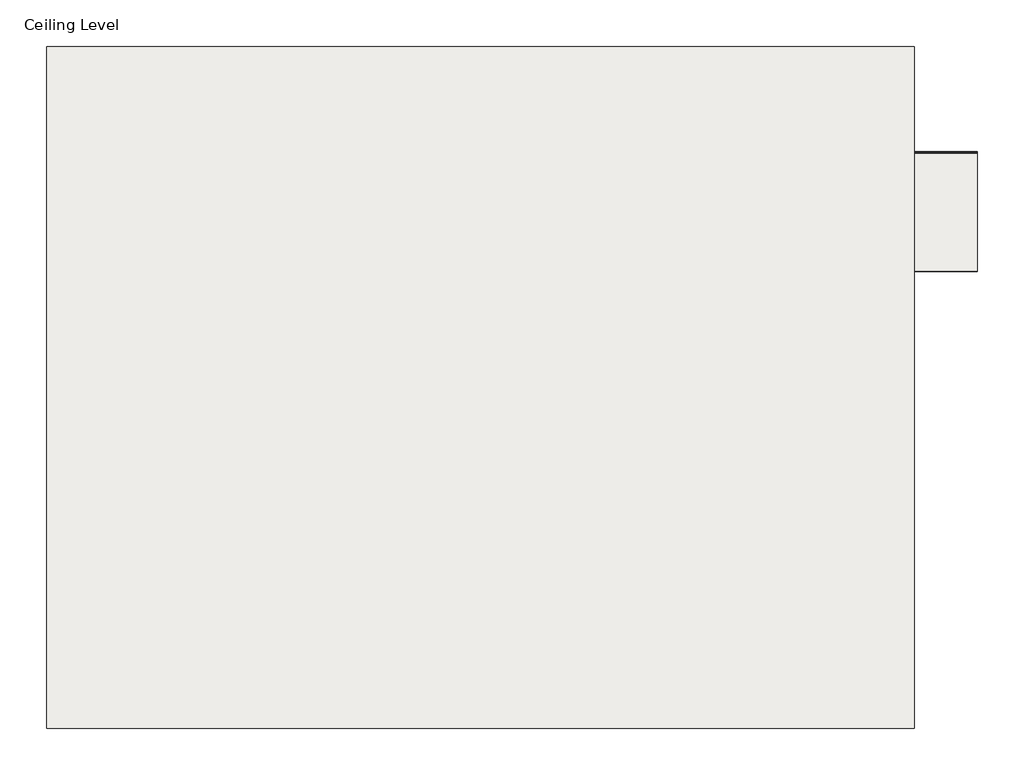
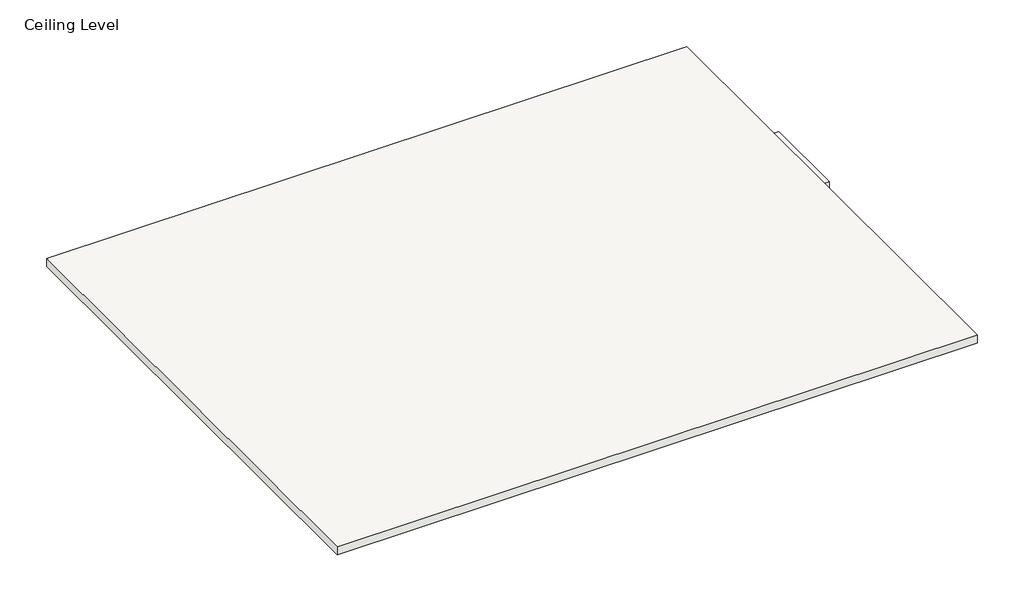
# One storey: 7 coverings.
"""IFC4 building model written with IfcOpenShell, lengths in millimetres."""

import ifcopenshell
import ifcopenshell.guid

model = None  # the IFC model being written
_history = None  # IfcOwnerHistory: only IFC2X3 demands one
_inside = {}  # id of a spatial element -> (the spatial element, [elements in it])
_under = {}  # id of a project, library or spatial element -> (it, [spatial elements below it])
_declared = {}  # id of a project -> (the project, [libraries it declares])
_typed = {}  # id of a type object -> (the type object, [elements of that type])
_made_of = {}  # id of a material, layer set ... -> (it, [elements and type objects made of it])


def new_model(schema):
    """Start an empty IFC model of exactly this schema.

    Asked for "IFC4X3", IfcOpenShell would pick the latest addendum, in which some entities
    have other attributes; the version numbers below select the first issue.
    IFC2X3 requires an IfcOwnerHistory on every rooted entity: one is made here for all.
    """
    global model, _history
    if schema == "IFC4X3":
        model = ifcopenshell.file(schema_version=(4, 3, 0, 0))
    else:
        model = ifcopenshell.file(schema=schema)
    _inside.clear()
    _under.clear()
    _declared.clear()
    _typed.clear()
    _made_of.clear()
    _history = None
    if model.schema == "IFC2X3":
        org = make("IfcOrganization", Name="unknown")
        user = make(
            "IfcPersonAndOrganization",
            ThePerson=make("IfcPerson", FamilyName="unknown"),
            TheOrganization=org,
        )
        app = make(
            "IfcApplication",
            ApplicationDeveloper=org,
            Version="unknown",
            ApplicationFullName="unknown",
            ApplicationIdentifier="unknown",
        )
        _history = make(
            "IfcOwnerHistory",
            OwningUser=user,
            OwningApplication=app,
            ChangeAction="ADDED",
            CreationDate=0,
        )
    return model


def make(cls, **values):
    """One entity of the class cls with the attributes given. An attribute that is None is left unset."""
    return model.create_entity(
        cls, **{name: value for name, value in values.items() if value is not None}
    )


def rooted(cls, **values):
    """An entity with a GlobalId (a new one), such as an element, a storey or a relation."""
    return make(cls, GlobalId=ifcopenshell.guid.new(), OwnerHistory=_history, **values)


def si_unit(unit_type, name, prefix=None):
    """IfcSIUnit, for example si_unit("LENGTHUNIT", "METRE", prefix="MILLI")."""
    return make("IfcSIUnit", UnitType=unit_type, Prefix=prefix, Name=name)


def assignment(units):
    """IfcUnitAssignment: the units of a project."""
    return None if units is None else make("IfcUnitAssignment", Units=units)


def point(xyz):
    """IfcCartesianPoint."""
    return None if xyz is None else make("IfcCartesianPoint", Coordinates=xyz)


def direction(xyz):
    """IfcDirection."""
    return None if xyz is None else make("IfcDirection", DirectionRatios=xyz)


def frame(location, z_axis=None, x_axis=None):
    """IfcAxis2Placement3D, a coordinate frame: its origin and axes. An axis left out is left unset."""
    return make(
        "IfcAxis2Placement3D",
        Location=point(location),
        Axis=direction(z_axis),
        RefDirection=direction(x_axis),
    )


def origin():
    """The frame at (0, 0, 0) with its axes left unset."""
    return frame((0.0, 0.0, 0.0))


def place(relative_to, where):
    """IfcLocalPlacement: puts the frame where relative to a parent placement (None: the world)."""
    return make(
        "IfcLocalPlacement", PlacementRelTo=relative_to, RelativePlacement=where
    )


def context(
    kind, dimensions, precision=None, world=None, true_north=None, identifier=None
):
    """IfcGeometricRepresentationContext, for example the 3D "Model" context."""
    return make(
        "IfcGeometricRepresentationContext",
        ContextIdentifier=identifier,
        ContextType=kind,
        CoordinateSpaceDimension=dimensions,
        Precision=precision,
        WorldCoordinateSystem=world,
        TrueNorth=true_north,
    )


def project(units=None, contexts=None):
    """IfcProject with its units and contexts."""
    return rooted(
        "IfcProject",
        Name="project",
        RepresentationContexts=contexts,
        UnitsInContext=assignment(units),
    )


def spatial(cls, under=None, at=None, **own):
    """A site, building, storey or space (cls), placed at a placement, below another one or the project."""
    s = rooted(cls, ObjectPlacement=at, **own)
    if under is not None:
        _under.setdefault(under.id(), (under, []))[1].append(s)
    return s


def polyline(points):
    """IfcPolyline through the points."""
    return make("IfcPolyline", Points=[point(p) for p in points])


def outline(outer, holes=None, kind="AREA"):
    """IfcArbitraryClosedProfileDef: a profile drawn as a closed curve; with holes, ...WithVoids."""
    if holes is None:
        return make("IfcArbitraryClosedProfileDef", ProfileType=kind, OuterCurve=outer)
    return make(
        "IfcArbitraryProfileDefWithVoids",
        ProfileType=kind,
        OuterCurve=outer,
        InnerCurves=holes,
    )


def extrude(swept, where, along, depth):
    """IfcExtrudedAreaSolid: the profile swept, set in the frame where, extruded along a direction by depth."""
    return make(
        "IfcExtrudedAreaSolid",
        SweptArea=swept,
        Position=where,
        ExtrudedDirection=direction(along),
        Depth=depth,
    )


def shape(context_of_items, identifier, shape_type, items):
    """IfcShapeRepresentation: the items that make up one representation, for example the "Body"."""
    return make(
        "IfcShapeRepresentation",
        ContextOfItems=context_of_items,
        RepresentationIdentifier=identifier,
        RepresentationType=shape_type,
        Items=items,
    )


def made_of(thing, what):
    """Note that an element or type object is made of a material, layer set ...; save() writes the relation."""
    if what is not None:
        _made_of.setdefault(what.id(), (what, []))[1].append(thing)
    return thing


def element(
    cls,
    number,
    at=None,
    inside=None,
    cuts=None,
    type_object=None,
    material=None,
    context=None,
    identifier="Body",
    shape_type=None,
    held_by="IfcProductDefinitionShape",
    body=None,
    shapes=None,
    **own,
):
    """One element of the class cls, such as IfcWall. Its Tag is "e" and its number.

    at: its placement. inside: the storey or other place that contains it. cuts: it is an
    opening in that element (IfcRelVoidsElement). A single representation is given by context,
    identifier, shape_type and body (its items); several are given by shapes. held_by: the class
    of the entity that holds the representations. save() writes the other relations.
    """
    e = rooted(cls, Tag="e%d" % number, ObjectPlacement=at, **own)
    if body is not None:
        shapes = [shape(context, identifier, shape_type, body)]
    if shapes is not None:
        e.Representation = make(held_by, Representations=shapes)
    if inside is not None:
        _inside.setdefault(inside.id(), (inside, []))[1].append(e)
    if cuts is not None:
        rooted(
            "IfcRelVoidsElement", RelatingBuildingElement=cuts, RelatedOpeningElement=e
        )
    if type_object is not None:
        _typed.setdefault(type_object.id(), (type_object, []))[1].append(e)
    return made_of(e, material)


def aggregate(whole, parts):
    """IfcRelAggregates: a whole, such as a stair, and the parts it consists of."""
    return rooted("IfcRelAggregates", RelatingObject=whole, RelatedObjects=parts)


def save(model, path):
    """Write the relations noted so far, then the file.

    IfcRelAggregates (storeys below a building ...), IfcRelContainedInSpatialStructure (elements
    in a storey), IfcRelDefinesByType, IfcRelAssociatesMaterial and IfcRelDeclares: one each for
    every whole, place, type object, material and project.
    """
    for whole, parts in _under.values():
        aggregate(whole, parts)
    for where, things in _inside.values():
        rooted(
            "IfcRelContainedInSpatialStructure",
            RelatedElements=things,
            RelatingStructure=where,
        )
    for kind, things in _typed.values():
        rooted("IfcRelDefinesByType", RelatedObjects=things, RelatingType=kind)
    for what, things in _made_of.values():
        rooted("IfcRelAssociatesMaterial", RelatedObjects=things, RelatingMaterial=what)
    for by, libraries in _declared.values():
        rooted("IfcRelDeclares", RelatingContext=by, RelatedDefinitions=libraries)
    model.write(path)


model = new_model("IFC4")

# Units and contexts
model_context = context("Model", 3, world=origin())
ifc_project = project(units=[si_unit("LENGTHUNIT", "METRE", prefix="MILLI")], contexts=[model_context])

# Site, building, storey
site = spatial("IfcSite", under=ifc_project)
building = spatial("IfcBuilding", under=site)
storey = spatial("IfcBuildingStorey", under=building, Name="Ceiling Level", Elevation=0.0)

# Coverings
placement = place(None, origin())
element("IfcCovering", 1, ObjectType="Rockfon Sonar dB 46 Dznl/A24 (white) 1500 x 600 x 50 mm", at=placement, inside=storey, context=model_context, shape_type="SweptSolid", body=[
    extrude(outline(polyline([(-7000.9781072, 8795.7122432), (-7000.9781072, 5895.7122432), (-10690.9781072, 5895.7122432), (-10690.9781072, 8795.7122432), (-7000.9781072, 8795.7122432)])), frame((0.0, 0.0, 1.0), z_axis=(0.0, 0.0, 1.0), x_axis=(1.0, 0.0, 0.0)), (0.0, 0.0, 1.0), 50.0),
])
element("IfcCovering", 2, ObjectType="Rockfon Sonar dB 46 E24 (white) 600 x 600 x 50 mm", at=placement, inside=storey, context=model_context, shape_type="SweptSolid", body=[
    extrude(outline(polyline([(-6733.0033126, 8338.0925771), (-6733.0033126, 7838.0925771), (-7133.0033126, 7838.0925771), (-7133.0033126, 8338.0925771), (-6733.0033126, 8338.0925771)])), frame((0.0, 0.0, -1472.1219909), z_axis=(0.0, 0.0, 1.0), x_axis=(1.0, 0.0, 0.0)), (0.0, 0.0, 1.0), 50.0),
])
element("IfcCovering", 3, ObjectType="Rockfon Sonar dB 46 E15 (white) 600 x 600 x 50 mm", at=placement, inside=storey, context=model_context, shape_type="SweptSolid", body=[
    extrude(outline(polyline([(-6733.0033126, 8340.9652539), (-6733.0033126, 7840.9652539), (-7133.0033126, 7840.9652539), (-7133.0033126, 8340.9652539), (-6733.0033126, 8340.9652539)])), frame((0.0, 0.0, -1300.9027328), z_axis=(0.0, 0.0, 1.0), x_axis=(1.0, 0.0, 0.0)), (0.0, 0.0, 1.0), 50.0),
])
element("IfcCovering", 4, ObjectType="Rockfon Sonar dB 46 A24 (white) 600 x 600 x 50 mm", at=placement, inside=storey, context=model_context, shape_type="SweptSolid", body=[
    extrude(outline(polyline([(-6733.0033126, 8340.8949878), (-6733.0033126, 7840.8949878), (-7133.0033126, 7840.8949878), (-7133.0033126, 8340.8949878), (-6733.0033126, 8340.8949878)])), frame((0.0, 0.0, -337.4666471), z_axis=(0.0, 0.0, 1.0), x_axis=(1.0, 0.0, 0.0)), (0.0, 0.0, 1.0), 50.0),
])
element("IfcCovering", 5, ObjectType="Rockfon Sonar dB 46 D (white) 600 x 600 x 50 mm", at=placement, inside=storey, context=model_context, shape_type="SweptSolid", body=[
    extrude(outline(polyline([(-6733.0033126, 8344.0645305), (-6733.0033126, 7844.0645305), (-7133.0033126, 7844.0645305), (-7133.0033126, 8344.0645305), (-6733.0033126, 8344.0645305)])), frame((0.0, 0.0, -488.6482624), z_axis=(0.0, 0.0, 1.0), x_axis=(1.0, 0.0, 0.0)), (0.0, 0.0, 1.0), 50.0),
])
element("IfcCovering", 6, ObjectType="Rockfon Sonar dB 46 Dznl/A100 (white) 1200 x 300 x 50 mm", at=placement, inside=storey, context=model_context, shape_type="SweptSolid", body=[
    extrude(outline(polyline([(-6733.0033126, 8347.7555525), (-6733.0033126, 7847.7555525), (-7133.0033126, 7847.7555525), (-7133.0033126, 8347.7555525), (-6733.0033126, 8347.7555525)])), frame((0.0, 0.0, -728.0241229), z_axis=(0.0, 0.0, 1.0), x_axis=(1.0, 0.0, 0.0)), (0.0, 0.0, 1.0), 50.0),
])
element("IfcCovering", 7, ObjectType="Rockfon Sonar dB 46 Dznl/A24 (white) 1200 x 300 x 50 mm", at=placement, inside=storey, context=model_context, shape_type="SweptSolid", body=[
    extrude(outline(polyline([(-6733.0033126, 8347.4211121), (-6733.0033126, 7847.4211121), (-7133.0033126, 7847.4211121), (-7133.0033126, 8347.4211121), (-6733.0033126, 8347.4211121)])), frame((0.0, 0.0, -1066.5586228), z_axis=(0.0, 0.0, 1.0), x_axis=(1.0, 0.0, 0.0)), (0.0, 0.0, 1.0), 50.0),
])

save(model, "model.ifc")
